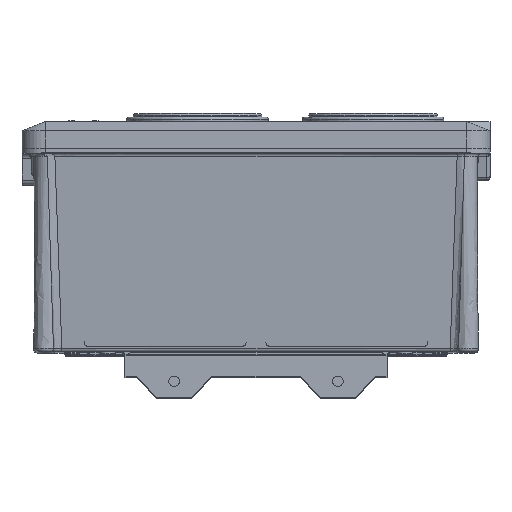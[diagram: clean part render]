
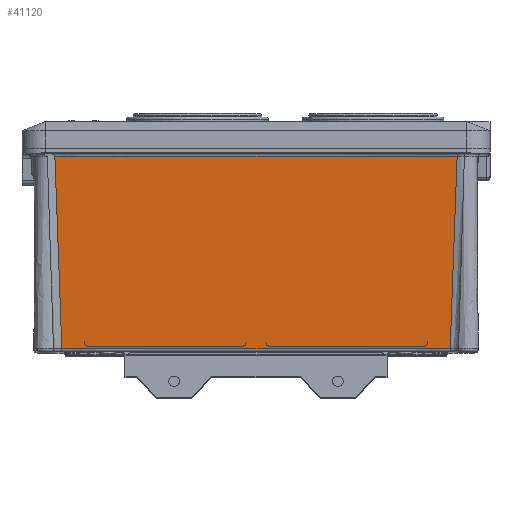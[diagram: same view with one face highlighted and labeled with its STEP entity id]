
A CAD part, top view. The second image highlights one B-rep face of the part: STEP entity #41120.
In plain terms, the highlighted free-form (B-spline) face has degree [3, 1] with [4, 2] control points.
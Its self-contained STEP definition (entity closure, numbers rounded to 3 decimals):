
#12542=CARTESIAN_POINT('',(-332.961,-172.211,564.198));
#12543=VERTEX_POINT('',#12542);
#14134=CARTESIAN_POINT('',(-1.04,-172.211,564.198));
#14135=VERTEX_POINT('',#14134);
#14146=CARTESIAN_POINT('',(-332.961,-172.211,564.198));
#14147=CARTESIAN_POINT('',(-222.321,-172.211,564.198));
#14148=CARTESIAN_POINT('',(-111.68,-172.211,564.198));
#14149=CARTESIAN_POINT('',(-1.04,-172.211,564.198));
#14150=B_SPLINE_CURVE_WITH_KNOTS('',3,(#14146,#14147,#14148,#14149),.UNSPECIFIED.,.F.,.F.,(4,4),(0.,0.332),.UNSPECIFIED.);
#14151=EDGE_CURVE('',#12543,#14135,#14150,.T.);
#31236=CARTESIAN_POINT('',(4.897,-7.844,575.799));
#31237=VERTEX_POINT('',#31236);
#31238=CARTESIAN_POINT('',(4.899,-7.789,575.803));
#31239=VERTEX_POINT('',#31238);
#31240=CARTESIAN_POINT('',(4.896,-7.844,575.799));
#31241=CARTESIAN_POINT('',(4.897,-7.826,575.8));
#31242=CARTESIAN_POINT('',(4.898,-7.807,575.802));
#31243=CARTESIAN_POINT('',(4.898,-7.789,575.803));
#31244=B_SPLINE_CURVE_WITH_KNOTS('',3,(#31240,#31241,#31242,#31243),.UNSPECIFIED.,.F.,.F.,(4,4),(0.,1.),.UNSPECIFIED.);
#31245=EDGE_CURVE('',#31237,#31239,#31244,.T.);
#31372=CARTESIAN_POINT('',(-338.9,-7.789,575.803));
#31373=VERTEX_POINT('',#31372);
#31423=CARTESIAN_POINT('',(4.899,-7.789,575.803));
#31424=CARTESIAN_POINT('',(-109.701,-7.789,575.803));
#31425=CARTESIAN_POINT('',(-224.3,-7.789,575.803));
#31426=CARTESIAN_POINT('',(-338.9,-7.789,575.803));
#31427=B_SPLINE_CURVE_WITH_KNOTS('',3,(#31423,#31424,#31425,#31426),.UNSPECIFIED.,.F.,.F.,(4,4),(0.169,0.513),.UNSPECIFIED.);
#31428=EDGE_CURVE('',#31239,#31373,#31427,.T.);
#41086=CARTESIAN_POINT('',(-332.961,-172.211,564.198));
#41087=CARTESIAN_POINT('',(-334.941,-117.404,568.067));
#41088=CARTESIAN_POINT('',(-336.92,-62.596,571.935));
#41089=CARTESIAN_POINT('',(-338.9,-7.789,575.803));
#41090=B_SPLINE_CURVE_WITH_KNOTS('',3,(#41086,#41087,#41088,#41089),.UNSPECIFIED.,.F.,.F.,(4,4),(0.016,0.984),.UNSPECIFIED.);
#41091=EDGE_CURVE('',#12543,#31373,#41090,.T.);
#41098=CARTESIAN_POINT('',(-1.04,-172.211,564.198));
#41099=CARTESIAN_POINT('',(4.899,-7.789,575.803));
#41100=CARTESIAN_POINT('',(-111.68,-172.211,564.198));
#41101=CARTESIAN_POINT('',(-109.701,-7.789,575.803));
#41102=CARTESIAN_POINT('',(-222.321,-172.211,564.198));
#41103=CARTESIAN_POINT('',(-224.3,-7.789,575.803));
#41104=CARTESIAN_POINT('',(-332.961,-172.211,564.198));
#41105=CARTESIAN_POINT('',(-338.9,-7.789,575.803));
#41106=B_SPLINE_SURFACE_WITH_KNOTS('',3,1,((#41098,#41099),(#41100,#41101),(#41102,#41103),(#41104,#41105)),.UNSPECIFIED.,.F.,.F.,.U.,(4,4),(2,2),(0.,1.),(0.016,0.984),.UNSPECIFIED.);
#41107=ORIENTED_EDGE('',*,*,#41091,.F.);
#41108=ORIENTED_EDGE('',*,*,#14151,.T.);
#41109=CARTESIAN_POINT('',(-1.04,-172.211,564.198));
#41110=CARTESIAN_POINT('',(0.939,-117.422,568.065));
#41111=CARTESIAN_POINT('',(2.918,-62.633,571.932));
#41112=CARTESIAN_POINT('',(4.897,-7.844,575.799));
#41113=B_SPLINE_CURVE_WITH_KNOTS('',3,(#41109,#41110,#41111,#41112),.UNSPECIFIED.,.F.,.F.,(4,4),(0.017,0.984),.UNSPECIFIED.);
#41114=EDGE_CURVE('',#14135,#31237,#41113,.T.);
#41115=ORIENTED_EDGE('',*,*,#41114,.T.);
#41116=ORIENTED_EDGE('',*,*,#31245,.T.);
#41117=ORIENTED_EDGE('',*,*,#31428,.T.);
#41118=EDGE_LOOP('',(#41107,#41108,#41115,#41116,#41117));
#41119=FACE_BOUND('',#41118,.T.);
#41120=ADVANCED_FACE('',(#41119),#41106,.F.);
